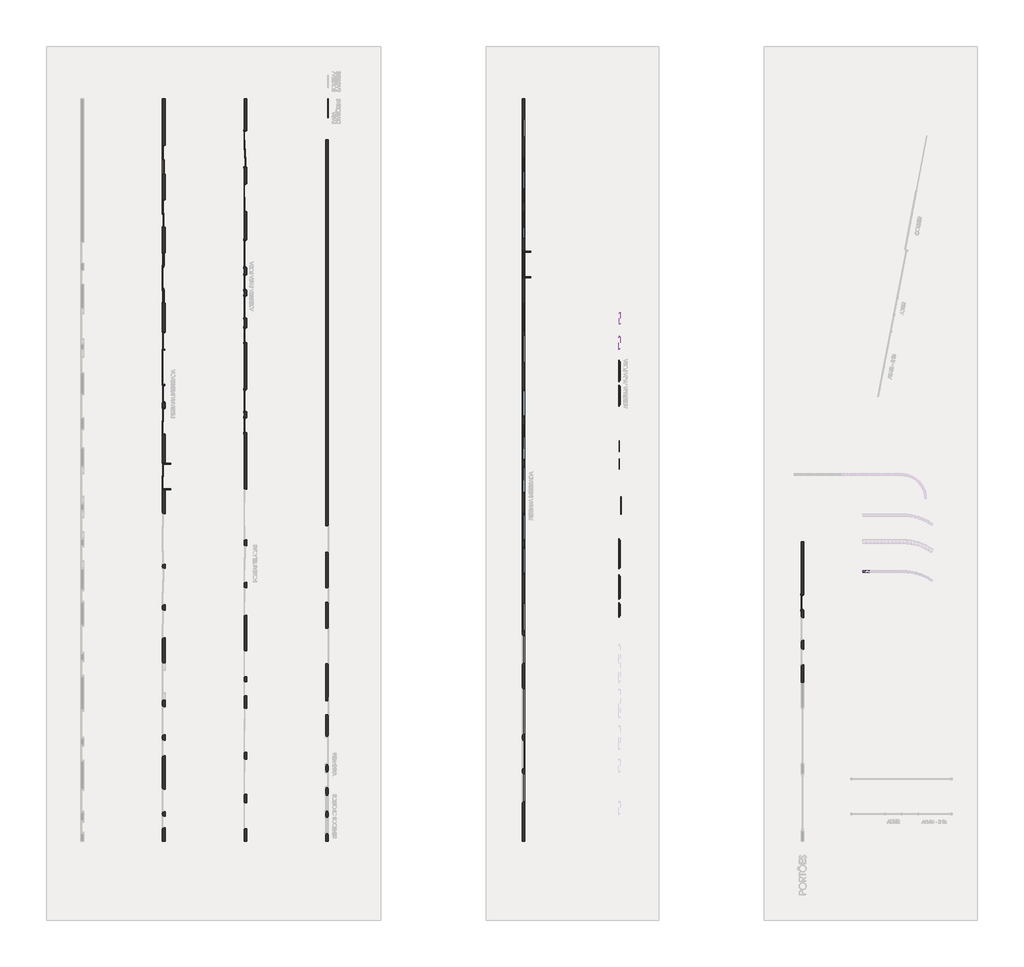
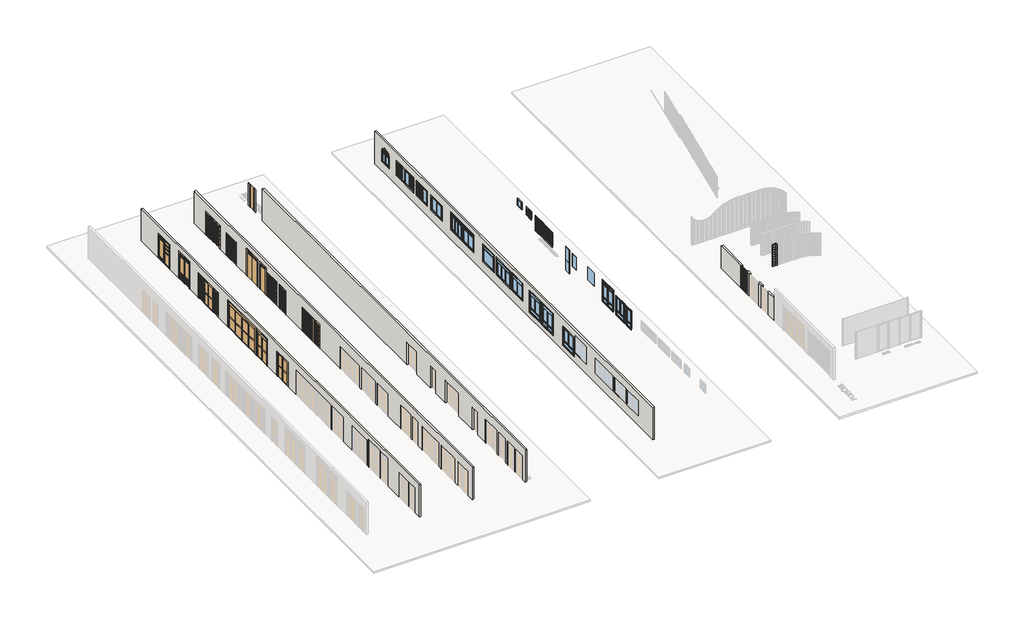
# One storey, part 2 of 15: 28 members, 22 windows, 18 plates, 16 doors, 6 walls.
"""IFC4 building model written with IfcOpenShell, lengths in millimetres."""

from ifc_helpers import new_model, si_unit, point, frame, frame_2d, origin, origin_with_axes, place, context, project, spatial, polyline, circle_curve, trimmed, segment, composite_curve, outline, extrude, transform, mapped, element, save
from components import door_120_x_210_11fb88a3, door_120_x_210_e39afd73, door_150_x_210_43c40135, door_150_x_220_97c69609, door_150_x_220_da17bf78, door_150_x_220_6ef245d6, door_150_x_220_6492d4d8, door_150_x_220_2da67abe, door_150_x_220_79fef6c3, door_200_x_210_1ee3ac55, door_200_x_210_0d7408c9, door_280_x_220_15cdb0a3, door_280_x_220_b82a3945, door_280_x_220_79a5b8a2, door_400_x_220_30593671, door_60_x_210_5ad6dbc2, door_80_160_x_210_04e50e8b, door_80_x_210_6ad2ea2f, door_80_x_210_b93372b0, door_80_x_220_70965305, door_80_x_210_1a701485, rectangular_mullion_junta_tijolo_de_vidro_3e2591da, rectangular_mullion_junta_tijolo_de_vidro_f72a5d11, rectangular_mullion_junta_tijolo_de_vidro_3e2b090d, rectangular_mullion_junta_tijolo_de_vidro_f51e90fd, rectangular_mullion_junta_tijolo_de_vidro_30a91def, rectangular_mullion_junta_tijolo_de_vidro_89802564, pnl_tijolo_de_vidro_a28b313b, window_100_x_120_d4ad384e, window_100_x_120_4a258b0d, window_100_x_120_e8788bc4, window_120_x_120_eb8e6252, window_150_x_120_fd5e9068, window_150_x_120_ad32f1ee, window_150_x_120_70a6131e, window_150_x_120_577b85d9, window_150_x_120_a11b06af, window_150_x_120_ec33c482, window_150_x_120_389f36cc, window_150_x_120_f6b27d10, window_150_x_120_5ce5c8ce, window_150_x_120_4bd1545a, window_200_x_120_acaa8d7a, window_250_x_120_5eaaa340, window_60_x_120_94a805db, window_60_x_120_d88f8660, window_60_x_120_2cb1537e, window_60_x_60_8af40003, window_60_x_60_2f3ebeee, janela_de_vidro_fixo_1_folha_100_x_110_6122613a

model = new_model("IFC4")

# Units and contexts
model_context = context("Model", 3, world=origin())
ifc_project = project(units=[si_unit("LENGTHUNIT", "METRE", prefix="MILLI")], contexts=[model_context])

# Site, building, storey
site = spatial("IfcSite", under=ifc_project)
building = spatial("IfcBuilding", under=site)
storey = spatial("IfcBuildingStorey", under=building, Name="TÉRREO", Elevation=0.0)

# Doors
placement = place(None, origin())
door_120_x_210_shape = door_120_x_210_11fb88a3(model_context)
element("IfcDoor", 1, ObjectType="PORTA VENEZIANA DE ABRIR - 2 FOLHAS : 120 X 210", at=placement, inside=storey, context=model_context, shape_type="MappedRepresentation", body=[
    mapped(door_120_x_210_shape, transform((8491.3161052, 12715.6559196, 0.0), x_axis=(0.0, -1.0, 0.0), y_axis=(1.0, 0.0, 0.0), z_axis=(0.0, 0.0, 1.0))),
])
door_120_x_210_2_shape = door_120_x_210_e39afd73(model_context)
element("IfcDoor", 2, ObjectType="PORTA VENEZIANA DE ABRIR PARA FORA - 2 FOLHAS : 120 X 210", at=placement, inside=storey, context=model_context, shape_type="MappedRepresentation", body=[
    mapped(door_120_x_210_2_shape, transform((8491.3161052, 17875.6559196, 0.0), x_axis=(0.0, 1.0, 0.0), y_axis=(-1.0, 0.0, 0.0), z_axis=(0.0, 0.0, 1.0))),
])
door_150_x_210_shape = door_150_x_210_43c40135(model_context)
element("IfcDoor", 3, ObjectType="PORTA VENEZIANA DE CORRER - 2 FOLHAS : 150 X 210", at=placement, inside=storey, context=model_context, shape_type="MappedRepresentation", body=[
    mapped(door_150_x_210_shape, transform((8489.3202338, 24238.8167935, 0.0), x_axis=(0.0, -1.0, 0.0), y_axis=(1.0, 0.0, 0.0), z_axis=(0.0, 0.0, 1.0))),
])
door_150_x_220_shape = door_150_x_220_97c69609(model_context)
element("IfcDoor", 4, ObjectType="PORTA DE VIDRO COM ESQUADRIA DE CORRER COM GRELHA - 2 FOLHAS + BANDEIRA VENEZIANA FIXA - 1 FOLHA : 150 X 220", at=placement, inside=storey, context=model_context, shape_type="MappedRepresentation", body=[
    mapped(door_150_x_220_shape, transform((3853.8161052, 23349.0043502, 0.0), x_axis=(0.0, -1.0, 0.0), y_axis=(1.0, 0.0, 0.0), z_axis=(0.0, 0.0, 1.0))),
])
door_150_x_220_2_shape = door_150_x_220_da17bf78(model_context)
element("IfcDoor", 5, ObjectType="PORTA DE ABRIR PARA FORA - 2 FOLHAS + BANDEIRA VENEZIANA FIXA - 1 FOLHA : 150 X 220", at=placement, inside=storey, context=model_context, shape_type="MappedRepresentation", body=[
    mapped(door_150_x_220_2_shape, transform((8491.3161052, 21065.6559196, 0.0), x_axis=(0.0, -1.0, 0.0), y_axis=(1.0, 0.0, 0.0), z_axis=(0.0, 0.0, 1.0))),
])
door_150_x_220_3_shape = door_150_x_220_6ef245d6(model_context)
door_150_x_220_4_shape = door_150_x_220_6492d4d8(model_context)
door_150_x_220_5_shape = door_150_x_220_2da67abe(model_context)
element("IfcDoor", 6, ObjectType="PORTA DE VIDRO COM ESQUADRIA DE CORRER - 2 FOLHAS + VENEZIANA SANFONADA - 4 FOLHAS : 150 X 220", at=placement, inside=storey, context=model_context, shape_type="MappedRepresentation", body=[
    mapped(door_150_x_220_3_shape, transform((3853.6582405, 8341.1881146, 0.0), x_axis=(0.0, -1.0, 0.0), y_axis=(1.0, 0.0, 0.0), z_axis=(0.0, 0.0, 1.0))),
    mapped(door_150_x_220_4_shape, transform((3853.6582405, 8341.1881146, 0.0), x_axis=(0.0, -1.0, 0.0), y_axis=(1.0, 0.0, 0.0), z_axis=(0.0, 0.0, 1.0))),
    mapped(door_150_x_220_5_shape, transform((3853.6582405, 8341.1881146, 0.0), x_axis=(0.0, -1.0, 0.0), y_axis=(1.0, 0.0, 0.0), z_axis=(0.0, 0.0, 1.0))),
])
door_150_x_220_6_shape = door_150_x_220_79fef6c3(model_context)
element("IfcDoor", 7, ObjectType="PORTA DE VIDRO COM ESQUADRIA DE CORRER - 2 FOLHAS + PERSIANA INTEGRADA : 150 x 220", at=placement, inside=storey, context=model_context, shape_type="MappedRepresentation", body=[
    mapped(door_150_x_220_6_shape, transform((3851.8890301, 11526.5998656, 0.0), x_axis=(0.0, -1.0, 0.0), y_axis=(1.0, 0.0, 0.0), z_axis=(0.0, 0.0, 1.0))),
])
door_200_x_210_shape = door_200_x_210_1ee3ac55(model_context)
door_200_x_210_2_shape = door_200_x_210_0d7408c9(model_context)
element("IfcDoor", 8, ObjectType="PORTA VENEZIANA DE CORRER - 4 FOLHAS : 200 X 210", at=placement, inside=storey, context=model_context, shape_type="MappedRepresentation", body=[
    mapped(door_200_x_210_shape, transform((8489.3202338, 27118.8167935, 0.0), x_axis=(0.0, -1.0, 0.0), y_axis=(1.0, 0.0, 0.0), z_axis=(0.0, 0.0, 1.0))),
    mapped(door_200_x_210_2_shape, transform((8489.3202338, 27118.8167935, 0.0), x_axis=(0.0, -1.0, 0.0), y_axis=(1.0, 0.0, 0.0), z_axis=(0.0, 0.0, 1.0))),
])
door_280_x_220_shape = door_280_x_220_15cdb0a3(model_context)
door_280_x_220_2_shape = door_280_x_220_b82a3945(model_context)
door_280_x_220_3_shape = door_280_x_220_79a5b8a2(model_context)
element("IfcDoor", 9, ObjectType="PORTA DE VIDRO COM ESQUADRIA DE CORRER - 4 FOLHAS + VENEZIANA DE CORRER - 4 FOLHAS : 280 x 220", at=placement, inside=storey, context=model_context, shape_type="MappedRepresentation", body=[
    mapped(door_280_x_220_shape, transform((3845.8478121, 19877.9178387, 0.0), x_axis=(0.0, -1.0, 0.0), y_axis=(1.0, 0.0, 0.0), z_axis=(0.0, 0.0, 1.0))),
    mapped(door_280_x_220_2_shape, transform((3845.8478121, 19877.9178387, 0.0), x_axis=(0.0, -1.0, 0.0), y_axis=(1.0, 0.0, 0.0), z_axis=(0.0, 0.0, 1.0))),
    mapped(door_280_x_220_3_shape, transform((3845.8478121, 19877.9178387, 0.0), x_axis=(0.0, -1.0, 0.0), y_axis=(1.0, 0.0, 0.0), z_axis=(0.0, 0.0, 1.0))),
])
door_400_x_220_shape = door_400_x_220_30593671(model_context)
element("IfcDoor", 10, ObjectType="PORTA DE VIDRO COM ESQUADRIA DE CORRER - 4 FOLHAS + PERSIANA INTEGRADA : 400 x 220", at=placement, inside=storey, context=model_context, shape_type="MappedRepresentation", body=[
    mapped(door_400_x_220_shape, transform((3851.8890301, 14581.5998656, 0.0), x_axis=(0.0, -1.0, 0.0), y_axis=(1.0, 0.0, 0.0), z_axis=(0.0, 0.0, 1.0))),
])
door_60_x_210_shape = door_60_x_210_5ad6dbc2(model_context)
element("IfcDoor", 11, ObjectType="PORTA DE ABRIR PARA DIVISÓRIAS- 1 FOLHA : 60 x 210", at=placement, inside=storey, context=model_context, shape_type="MappedRepresentation", body=[
    mapped(door_60_x_210_shape, transform((13188.8161052, 29295.931803, 0.0), x_axis=(0.0, -1.0, 0.0), y_axis=(1.0, 0.0, 0.0), z_axis=(0.0, 0.0, 1.0))),
])
door_80_160_x_210_shape = door_80_160_x_210_04e50e8b(model_context)
element("IfcDoor", 12, ObjectType="PORTA DE VIDRO COM GRELHA INFERIOR E SUPERIOR COM ESQUADRIA DE ABRIR - 1 FOLHA + LUZ LATERAL - 1 FOLHA FIXA + FOLHAS BASCULANTES : 80 (160) X 210", at=placement, inside=storey, context=model_context, shape_type="MappedRepresentation", body=[
    mapped(door_80_160_x_210_shape, transform((3853.8161052, 26308.7043502, 0.0), x_axis=(0.0, -1.0, 0.0), y_axis=(1.0, 0.0, 0.0), z_axis=(0.0, 0.0, 1.0))),
])
door_80_x_210_shape = door_80_x_210_6ad2ea2f(model_context)
element("IfcDoor", 13, ObjectType="PORTA VENEZIANA DE ABRIR - 1 FOLHA : 80 X 210", at=placement, inside=storey, context=model_context, shape_type="MappedRepresentation", body=[
    mapped(door_80_x_210_shape, transform((8491.3161052, 11155.6559196, 0.0), x_axis=(0.0, 1.0, 0.0), y_axis=(-1.0, 0.0, 0.0), z_axis=(0.0, 0.0, 1.0))),
])
door_80_x_210_2_shape = door_80_x_210_b93372b0(model_context)
element("IfcDoor", 14, ObjectType="PORTA VENEZIANA DE ABRIR PARA FORA - 1 FOLHA : 80 X 210", at=placement, inside=storey, context=model_context, shape_type="MappedRepresentation", body=[
    mapped(door_80_x_210_2_shape, transform((8491.3161052, 16435.6559196, 0.0), x_axis=(0.0, -1.0, 0.0), y_axis=(1.0, 0.0, 0.0), z_axis=(0.0, 0.0, 1.0))),
])
door_80_x_220_shape = door_80_x_220_70965305(model_context)
element("IfcDoor", 15, ObjectType="PORTA DE ABRIR PARA FORA - 1 FOLHA + BANDEIRA VENEZIANA FIXA - 1 FOLHA : 80 X 220", at=placement, inside=storey, context=model_context, shape_type="MappedRepresentation", body=[
    mapped(door_80_x_220_shape, transform((8491.3161052, 19435.6559196, 0.0), x_axis=(0.0, -1.0, 0.0), y_axis=(1.0, 0.0, 0.0), z_axis=(0.0, 0.0, 1.0))),
])
door_80_x_210_3_shape = door_80_x_210_1a701485(model_context)
element("IfcDoor", 16, ObjectType="PORTÃO VENEZIANA DE ABRIR - 1 FOLHA : 80 x 210", at=placement, inside=storey, context=model_context, shape_type="MappedRepresentation", body=[
    mapped(door_80_x_210_3_shape, transform((40169.4407312, 1211.6852962, 0.0), x_axis=(0.0, -1.0, 0.0), y_axis=(1.0, 0.0, 0.0), z_axis=(0.0, 0.0, 1.0))),
])

# Members
rectangular_mullion_junta_tijolo_de_vidro_shape = rectangular_mullion_junta_tijolo_de_vidro_3e2591da(model_context)
element("IfcMember", 17, ObjectType="Rectangular Mullion : JUNTA TIJOLO DE VIDRO", at=placement, inside=storey, context=model_context, shape_type="MappedRepresentation", body=[
    mapped(rectangular_mullion_junta_tijolo_de_vidro_shape, transform((43805.2941159, 2916.9852574, 10.0), x_axis=(1.0, 0.0, 0.0), y_axis=(0.0, -1.0, 0.0), z_axis=(0.0, 0.0, -1.0))),
])
element("IfcMember", 18, ObjectType="Rectangular Mullion : JUNTA TIJOLO DE VIDRO", at=placement, inside=storey, context=model_context, shape_type="MappedRepresentation", body=[
    mapped(rectangular_mullion_junta_tijolo_de_vidro_shape, transform((43805.2941159, 2916.9852574, 231.1111111), x_axis=(1.0, 0.0, 0.0), y_axis=(0.0, -1.0, 0.0), z_axis=(0.0, 0.0, -1.0))),
])
element("IfcMember", 19, ObjectType="Rectangular Mullion : JUNTA TIJOLO DE VIDRO", at=placement, inside=storey, context=model_context, shape_type="MappedRepresentation", body=[
    mapped(rectangular_mullion_junta_tijolo_de_vidro_shape, transform((43805.2941159, 2916.9852574, 452.2222222), x_axis=(1.0, 0.0, 0.0), y_axis=(0.0, -1.0, 0.0), z_axis=(0.0, 0.0, -1.0))),
])
element("IfcMember", 20, ObjectType="Rectangular Mullion : JUNTA TIJOLO DE VIDRO", at=placement, inside=storey, context=model_context, shape_type="MappedRepresentation", body=[
    mapped(rectangular_mullion_junta_tijolo_de_vidro_shape, transform((43805.2941159, 2916.9852574, 673.3333333), x_axis=(1.0, 0.0, 0.0), y_axis=(0.0, -1.0, 0.0), z_axis=(0.0, 0.0, -1.0))),
])
element("IfcMember", 21, ObjectType="Rectangular Mullion : JUNTA TIJOLO DE VIDRO", at=placement, inside=storey, context=model_context, shape_type="MappedRepresentation", body=[
    mapped(rectangular_mullion_junta_tijolo_de_vidro_shape, transform((43805.2941159, 2916.9852574, 894.4444444), x_axis=(1.0, 0.0, 0.0), y_axis=(0.0, -1.0, 0.0), z_axis=(0.0, 0.0, -1.0))),
])
element("IfcMember", 22, ObjectType="Rectangular Mullion : JUNTA TIJOLO DE VIDRO", at=placement, inside=storey, context=model_context, shape_type="MappedRepresentation", body=[
    mapped(rectangular_mullion_junta_tijolo_de_vidro_shape, transform((43805.2941159, 2916.9852574, 1115.5555556), x_axis=(1.0, 0.0, 0.0), y_axis=(0.0, -1.0, 0.0), z_axis=(0.0, 0.0, -1.0))),
])
element("IfcMember", 23, ObjectType="Rectangular Mullion : JUNTA TIJOLO DE VIDRO", at=placement, inside=storey, context=model_context, shape_type="MappedRepresentation", body=[
    mapped(rectangular_mullion_junta_tijolo_de_vidro_shape, transform((43805.2941159, 2916.9852574, 1336.6666667), x_axis=(1.0, 0.0, 0.0), y_axis=(0.0, -1.0, 0.0), z_axis=(0.0, 0.0, -1.0))),
])
element("IfcMember", 24, ObjectType="Rectangular Mullion : JUNTA TIJOLO DE VIDRO", at=placement, inside=storey, context=model_context, shape_type="MappedRepresentation", body=[
    mapped(rectangular_mullion_junta_tijolo_de_vidro_shape, transform((43805.2941159, 2916.9852574, 1557.7777778), x_axis=(1.0, 0.0, 0.0), y_axis=(0.0, -1.0, 0.0), z_axis=(0.0, 0.0, -1.0))),
])
rectangular_mullion_junta_tijolo_de_vidro_2_shape = rectangular_mullion_junta_tijolo_de_vidro_f72a5d11(model_context)
element("IfcMember", 25, ObjectType="Rectangular Mullion : JUNTA TIJOLO DE VIDRO", at=placement, inside=storey, context=model_context, shape_type="MappedRepresentation", body=[
    mapped(rectangular_mullion_junta_tijolo_de_vidro_2_shape, transform((43805.2941159, 2916.9852574, 2000.0), x_axis=(0.0, 0.0, 1.0), y_axis=(0.0, -1.0, 0.0), z_axis=(1.0, 0.0, 0.0))),
])
element("IfcMember", 26, ObjectType="Rectangular Mullion : JUNTA TIJOLO DE VIDRO", at=placement, inside=storey, context=model_context, shape_type="MappedRepresentation", body=[
    mapped(rectangular_mullion_junta_tijolo_de_vidro_2_shape, transform((43592.1122977, 2916.9852574, 0.0), x_axis=(0.0, 0.0, -1.0), y_axis=(0.0, -1.0, 0.0), z_axis=(-1.0, 0.0, 0.0))),
])
rectangular_mullion_junta_tijolo_de_vidro_3_shape = rectangular_mullion_junta_tijolo_de_vidro_3e2b090d(model_context)
element("IfcMember", 27, ObjectType="Rectangular Mullion : JUNTA TIJOLO DE VIDRO", at=placement, inside=storey, context=model_context, shape_type="MappedRepresentation", body=[
    mapped(rectangular_mullion_junta_tijolo_de_vidro_3_shape, transform((43805.2941159, 2916.9852574, 0.0), x_axis=(0.0, 0.0, -1.0), y_axis=(0.0, -1.0, 0.0), z_axis=(-1.0, 0.0, 0.0))),
])
rectangular_mullion_junta_tijolo_de_vidro_4_shape = rectangular_mullion_junta_tijolo_de_vidro_f51e90fd(model_context)
element("IfcMember", 28, ObjectType="Rectangular Mullion : JUNTA TIJOLO DE VIDRO", at=placement, inside=storey, context=model_context, shape_type="MappedRepresentation", body=[
    mapped(rectangular_mullion_junta_tijolo_de_vidro_4_shape, transform((43805.2941159, 2916.9852574, 226.1111111), x_axis=(0.0, 0.0, 1.0), y_axis=(0.0, -1.0, 0.0), z_axis=(1.0, 0.0, 0.0))),
])
element("IfcMember", 29, ObjectType="Rectangular Mullion : JUNTA TIJOLO DE VIDRO", at=placement, inside=storey, context=model_context, shape_type="MappedRepresentation", body=[
    mapped(rectangular_mullion_junta_tijolo_de_vidro_4_shape, transform((43805.2941159, 2916.9852574, 447.2222222), x_axis=(0.0, 0.0, 1.0), y_axis=(0.0, -1.0, 0.0), z_axis=(1.0, 0.0, 0.0))),
])
element("IfcMember", 30, ObjectType="Rectangular Mullion : JUNTA TIJOLO DE VIDRO", at=placement, inside=storey, context=model_context, shape_type="MappedRepresentation", body=[
    mapped(rectangular_mullion_junta_tijolo_de_vidro_4_shape, transform((43805.2941159, 2916.9852574, 668.3333333), x_axis=(0.0, 0.0, 1.0), y_axis=(0.0, -1.0, 0.0), z_axis=(1.0, 0.0, 0.0))),
])
element("IfcMember", 31, ObjectType="Rectangular Mullion : JUNTA TIJOLO DE VIDRO", at=placement, inside=storey, context=model_context, shape_type="MappedRepresentation", body=[
    mapped(rectangular_mullion_junta_tijolo_de_vidro_4_shape, transform((43805.2941159, 2916.9852574, 889.4444444), x_axis=(0.0, 0.0, 1.0), y_axis=(0.0, -1.0, 0.0), z_axis=(1.0, 0.0, 0.0))),
])
element("IfcMember", 32, ObjectType="Rectangular Mullion : JUNTA TIJOLO DE VIDRO", at=placement, inside=storey, context=model_context, shape_type="MappedRepresentation", body=[
    mapped(rectangular_mullion_junta_tijolo_de_vidro_4_shape, transform((43805.2941159, 2916.9852574, 1110.5555556), x_axis=(0.0, 0.0, 1.0), y_axis=(0.0, -1.0, 0.0), z_axis=(1.0, 0.0, 0.0))),
])
element("IfcMember", 33, ObjectType="Rectangular Mullion : JUNTA TIJOLO DE VIDRO", at=placement, inside=storey, context=model_context, shape_type="MappedRepresentation", body=[
    mapped(rectangular_mullion_junta_tijolo_de_vidro_4_shape, transform((43805.2941159, 2916.9852574, 1331.6666667), x_axis=(0.0, 0.0, 1.0), y_axis=(0.0, -1.0, 0.0), z_axis=(1.0, 0.0, 0.0))),
])
element("IfcMember", 34, ObjectType="Rectangular Mullion : JUNTA TIJOLO DE VIDRO", at=placement, inside=storey, context=model_context, shape_type="MappedRepresentation", body=[
    mapped(rectangular_mullion_junta_tijolo_de_vidro_4_shape, transform((43805.2941159, 2916.9852574, 1552.7777778), x_axis=(0.0, 0.0, 1.0), y_axis=(0.0, -1.0, 0.0), z_axis=(1.0, 0.0, 0.0))),
])
element("IfcMember", 35, ObjectType="Rectangular Mullion : JUNTA TIJOLO DE VIDRO", at=placement, inside=storey, context=model_context, shape_type="MappedRepresentation", body=[
    mapped(rectangular_mullion_junta_tijolo_de_vidro_4_shape, transform((43805.2941159, 2916.9852574, 1773.8888889), x_axis=(0.0, 0.0, 1.0), y_axis=(0.0, -1.0, 0.0), z_axis=(1.0, 0.0, 0.0))),
])
rectangular_mullion_junta_tijolo_de_vidro_5_shape = rectangular_mullion_junta_tijolo_de_vidro_30a91def(model_context)
element("IfcMember", 36, ObjectType="Rectangular Mullion : JUNTA TIJOLO DE VIDRO", at=placement, inside=storey, context=model_context, shape_type="MappedRepresentation", body=[
    mapped(rectangular_mullion_junta_tijolo_de_vidro_5_shape, transform((43592.1122977, 2916.9852574, 1990.0), x_axis=(-1.0, 0.0, 0.0), y_axis=(0.0, -1.0, 0.0), z_axis=(0.0, 0.0, 1.0))),
])
element("IfcMember", 37, ObjectType="Rectangular Mullion : JUNTA TIJOLO DE VIDRO", at=placement, inside=storey, context=model_context, shape_type="MappedRepresentation", body=[
    mapped(rectangular_mullion_junta_tijolo_de_vidro_5_shape, transform((43592.1122977, 2916.9852574, 226.1111111), x_axis=(-1.0, 0.0, 0.0), y_axis=(0.0, -1.0, 0.0), z_axis=(0.0, 0.0, 1.0))),
])
rectangular_mullion_junta_tijolo_de_vidro_6_shape = rectangular_mullion_junta_tijolo_de_vidro_89802564(model_context)
element("IfcMember", 38, ObjectType="Rectangular Mullion : JUNTA TIJOLO DE VIDRO", at=placement, inside=storey, context=model_context, shape_type="MappedRepresentation", body=[
    mapped(rectangular_mullion_junta_tijolo_de_vidro_6_shape, transform((43592.1122977, 2916.9852574, 447.2222222), x_axis=(-1.0, 0.0, 0.0), y_axis=(0.0, -1.0, 0.0), z_axis=(0.0, 0.0, 1.0))),
])
element("IfcMember", 39, ObjectType="Rectangular Mullion : JUNTA TIJOLO DE VIDRO", at=placement, inside=storey, context=model_context, shape_type="MappedRepresentation", body=[
    mapped(rectangular_mullion_junta_tijolo_de_vidro_6_shape, transform((43592.1122977, 2916.9852574, 668.3333333), x_axis=(-1.0, 0.0, 0.0), y_axis=(0.0, -1.0, 0.0), z_axis=(0.0, 0.0, 1.0))),
])
element("IfcMember", 40, ObjectType="Rectangular Mullion : JUNTA TIJOLO DE VIDRO", at=placement, inside=storey, context=model_context, shape_type="MappedRepresentation", body=[
    mapped(rectangular_mullion_junta_tijolo_de_vidro_6_shape, transform((43592.1122977, 2916.9852574, 889.4444444), x_axis=(-1.0, 0.0, 0.0), y_axis=(0.0, -1.0, 0.0), z_axis=(0.0, 0.0, 1.0))),
])
element("IfcMember", 41, ObjectType="Rectangular Mullion : JUNTA TIJOLO DE VIDRO", at=placement, inside=storey, context=model_context, shape_type="MappedRepresentation", body=[
    mapped(rectangular_mullion_junta_tijolo_de_vidro_6_shape, transform((43592.1122977, 2916.9852574, 1110.5555556), x_axis=(-1.0, 0.0, 0.0), y_axis=(0.0, -1.0, 0.0), z_axis=(0.0, 0.0, 1.0))),
])
element("IfcMember", 42, ObjectType="Rectangular Mullion : JUNTA TIJOLO DE VIDRO", at=placement, inside=storey, context=model_context, shape_type="MappedRepresentation", body=[
    mapped(rectangular_mullion_junta_tijolo_de_vidro_6_shape, transform((43592.1122977, 2916.9852574, 1331.6666667), x_axis=(-1.0, 0.0, 0.0), y_axis=(0.0, -1.0, 0.0), z_axis=(0.0, 0.0, 1.0))),
])
element("IfcMember", 43, ObjectType="Rectangular Mullion : JUNTA TIJOLO DE VIDRO", at=placement, inside=storey, context=model_context, shape_type="MappedRepresentation", body=[
    mapped(rectangular_mullion_junta_tijolo_de_vidro_6_shape, transform((43592.1122977, 2916.9852574, 1552.7777778), x_axis=(-1.0, 0.0, 0.0), y_axis=(0.0, -1.0, 0.0), z_axis=(0.0, 0.0, 1.0))),
])
element("IfcMember", 44, ObjectType="Rectangular Mullion : JUNTA TIJOLO DE VIDRO", at=placement, inside=storey, context=model_context, shape_type="MappedRepresentation", body=[
    mapped(rectangular_mullion_junta_tijolo_de_vidro_6_shape, transform((43592.1122977, 2916.9852574, 1773.8888889), x_axis=(-1.0, 0.0, 0.0), y_axis=(0.0, -1.0, 0.0), z_axis=(0.0, 0.0, 1.0))),
])

# Plates
pnl_tijolo_de_vidro_shape = pnl_tijolo_de_vidro_a28b313b(model_context)
element("IfcPlate", 45, ObjectType="pnl - TIJOLO DE VIDRO : e = 8", at=placement, inside=storey, context=model_context, shape_type="MappedRepresentation", body=[
    mapped(pnl_tijolo_de_vidro_shape, transform((43701.2032068, 2916.9852574, 10.0), x_axis=(1.0, 0.0, 0.0), y_axis=(0.0, 1.0, 0.0), z_axis=(0.0, 0.0, 1.0))),
])
element("IfcPlate", 46, ObjectType="pnl - TIJOLO DE VIDRO : e = 8", at=placement, inside=storey, context=model_context, shape_type="MappedRepresentation", body=[
    mapped(pnl_tijolo_de_vidro_shape, transform((43909.385025, 2916.9852574, 10.0), x_axis=(1.0, 0.0, 0.0), y_axis=(0.0, 1.0, 0.0), z_axis=(0.0, 0.0, 1.0))),
])
element("IfcPlate", 47, ObjectType="pnl - TIJOLO DE VIDRO : e = 8", at=placement, inside=storey, context=model_context, shape_type="MappedRepresentation", body=[
    mapped(pnl_tijolo_de_vidro_shape, transform((43701.2032068, 2916.9852574, 231.1111111), x_axis=(1.0, 0.0, 0.0), y_axis=(0.0, 1.0, 0.0), z_axis=(0.0, 0.0, 1.0))),
])
element("IfcPlate", 48, ObjectType="pnl - TIJOLO DE VIDRO : e = 8", at=placement, inside=storey, context=model_context, shape_type="MappedRepresentation", body=[
    mapped(pnl_tijolo_de_vidro_shape, transform((43909.385025, 2916.9852574, 231.1111111), x_axis=(1.0, 0.0, 0.0), y_axis=(0.0, 1.0, 0.0), z_axis=(0.0, 0.0, 1.0))),
])
element("IfcPlate", 49, ObjectType="pnl - TIJOLO DE VIDRO : e = 8", at=placement, inside=storey, context=model_context, shape_type="MappedRepresentation", body=[
    mapped(pnl_tijolo_de_vidro_shape, transform((43701.2032068, 2916.9852574, 452.2222222), x_axis=(1.0, 0.0, 0.0), y_axis=(0.0, 1.0, 0.0), z_axis=(0.0, 0.0, 1.0))),
])
element("IfcPlate", 50, ObjectType="pnl - TIJOLO DE VIDRO : e = 8", at=placement, inside=storey, context=model_context, shape_type="MappedRepresentation", body=[
    mapped(pnl_tijolo_de_vidro_shape, transform((43909.385025, 2916.9852574, 452.2222222), x_axis=(1.0, 0.0, 0.0), y_axis=(0.0, 1.0, 0.0), z_axis=(0.0, 0.0, 1.0))),
])
element("IfcPlate", 51, ObjectType="pnl - TIJOLO DE VIDRO : e = 8", at=placement, inside=storey, context=model_context, shape_type="MappedRepresentation", body=[
    mapped(pnl_tijolo_de_vidro_shape, transform((43701.2032068, 2916.9852574, 673.3333333), x_axis=(1.0, 0.0, 0.0), y_axis=(0.0, 1.0, 0.0), z_axis=(0.0, 0.0, 1.0))),
])
element("IfcPlate", 52, ObjectType="pnl - TIJOLO DE VIDRO : e = 8", at=placement, inside=storey, context=model_context, shape_type="MappedRepresentation", body=[
    mapped(pnl_tijolo_de_vidro_shape, transform((43909.385025, 2916.9852574, 673.3333333), x_axis=(1.0, 0.0, 0.0), y_axis=(0.0, 1.0, 0.0), z_axis=(0.0, 0.0, 1.0))),
])
element("IfcPlate", 53, ObjectType="pnl - TIJOLO DE VIDRO : e = 8", at=placement, inside=storey, context=model_context, shape_type="MappedRepresentation", body=[
    mapped(pnl_tijolo_de_vidro_shape, transform((43701.2032068, 2916.9852574, 894.4444444), x_axis=(1.0, 0.0, 0.0), y_axis=(0.0, 1.0, 0.0), z_axis=(0.0, 0.0, 1.0))),
])
element("IfcPlate", 54, ObjectType="pnl - TIJOLO DE VIDRO : e = 8", at=placement, inside=storey, context=model_context, shape_type="MappedRepresentation", body=[
    mapped(pnl_tijolo_de_vidro_shape, transform((43909.385025, 2916.9852574, 894.4444444), x_axis=(1.0, 0.0, 0.0), y_axis=(0.0, 1.0, 0.0), z_axis=(0.0, 0.0, 1.0))),
])
element("IfcPlate", 55, ObjectType="pnl - TIJOLO DE VIDRO : e = 8", at=placement, inside=storey, context=model_context, shape_type="MappedRepresentation", body=[
    mapped(pnl_tijolo_de_vidro_shape, transform((43701.2032068, 2916.9852574, 1115.5555556), x_axis=(1.0, 0.0, 0.0), y_axis=(0.0, 1.0, 0.0), z_axis=(0.0, 0.0, 1.0))),
])
element("IfcPlate", 56, ObjectType="pnl - TIJOLO DE VIDRO : e = 8", at=placement, inside=storey, context=model_context, shape_type="MappedRepresentation", body=[
    mapped(pnl_tijolo_de_vidro_shape, transform((43909.385025, 2916.9852574, 1115.5555556), x_axis=(1.0, 0.0, 0.0), y_axis=(0.0, 1.0, 0.0), z_axis=(0.0, 0.0, 1.0))),
])
element("IfcPlate", 57, ObjectType="pnl - TIJOLO DE VIDRO : e = 8", at=placement, inside=storey, context=model_context, shape_type="MappedRepresentation", body=[
    mapped(pnl_tijolo_de_vidro_shape, transform((43701.2032068, 2916.9852574, 1336.6666667), x_axis=(1.0, 0.0, 0.0), y_axis=(0.0, 1.0, 0.0), z_axis=(0.0, 0.0, 1.0))),
])
element("IfcPlate", 58, ObjectType="pnl - TIJOLO DE VIDRO : e = 8", at=placement, inside=storey, context=model_context, shape_type="MappedRepresentation", body=[
    mapped(pnl_tijolo_de_vidro_shape, transform((43909.385025, 2916.9852574, 1336.6666667), x_axis=(1.0, 0.0, 0.0), y_axis=(0.0, 1.0, 0.0), z_axis=(0.0, 0.0, 1.0))),
])
element("IfcPlate", 59, ObjectType="pnl - TIJOLO DE VIDRO : e = 8", at=placement, inside=storey, context=model_context, shape_type="MappedRepresentation", body=[
    mapped(pnl_tijolo_de_vidro_shape, transform((43701.2032068, 2916.9852574, 1557.7777778), x_axis=(1.0, 0.0, 0.0), y_axis=(0.0, 1.0, 0.0), z_axis=(0.0, 0.0, 1.0))),
])
element("IfcPlate", 60, ObjectType="pnl - TIJOLO DE VIDRO : e = 8", at=placement, inside=storey, context=model_context, shape_type="MappedRepresentation", body=[
    mapped(pnl_tijolo_de_vidro_shape, transform((43909.385025, 2916.9852574, 1557.7777778), x_axis=(1.0, 0.0, 0.0), y_axis=(0.0, 1.0, 0.0), z_axis=(0.0, 0.0, 1.0))),
])
element("IfcPlate", 61, ObjectType="pnl - TIJOLO DE VIDRO : e = 8", at=placement, inside=storey, context=model_context, shape_type="MappedRepresentation", body=[
    mapped(pnl_tijolo_de_vidro_shape, transform((43701.2032068, 2916.9852574, 1778.8888889), x_axis=(1.0, 0.0, 0.0), y_axis=(0.0, 1.0, 0.0), z_axis=(0.0, 0.0, 1.0))),
])
element("IfcPlate", 62, ObjectType="pnl - TIJOLO DE VIDRO : e = 8", at=placement, inside=storey, context=model_context, shape_type="MappedRepresentation", body=[
    mapped(pnl_tijolo_de_vidro_shape, transform((43909.385025, 2916.9852574, 1778.8888889), x_axis=(1.0, 0.0, 0.0), y_axis=(0.0, 1.0, 0.0), z_axis=(0.0, 0.0, 1.0))),
])

# Walls
element("IfcWall", 63, ObjectType="CERÂMICO - EMBOÇO / EMBOÇO (15)", at=placement, inside=storey, context=model_context, shape_type="SweptSolid", body=[
    extrude(outline(polyline([(29805.931803, 3000.0), (29805.931803, 0.0), (27163.7043502, 0.0), (27163.7043502, 2235.0), (25493.7043502, 2235.0), (25493.7043502, 0.0), (24054.0043502, 0.0), (24054.0043502, 2485.0), (22484.0043502, 2485.0), (22484.0043502, 0.0), (21054.0043502, 0.0), (21054.0043502, 2235.0), (18184.0043502, 2235.0), (18184.0043502, 0.0), (16554.0043502, 0.0), (16554.0043502, 2485.0), (12484.0043502, 2485.0), (12484.0043502, 0.0), (12249.0043502, 0.0), (12249.0043502, 2485.0), (10679.0043502, 2485.0), (10679.0043502, 0.0), (9114.0043502, 0.0), (9114.0043502, 2235.0), (7544.0043502, 2235.0), (7544.0043502, 0.0), (6205.0396235, 0.0), (6205.0396235, 2235.0), (3335.0396235, 2235.0), (3335.0396235, 0.0), (3105.0396235, 0.0), (3105.0396235, 2235.0), (1035.0396235, 2235.0), (1035.0396235, 0.0), (715.0396235, 0.0), (715.0396235, 2235.0), (-854.9603765, 2235.0), (-854.9603765, 0.0), (-2304.9603765, 0.0), (-2304.9603765, 2235.0), (-4374.9603765, 2235.0), (-4374.9603765, 0.0), (-4784.9603765, 0.0), (-4784.9603765, 2485.0), (-6354.9603765, 2485.0), (-6354.9603765, 0.0), (-6684.9603765, 0.0), (-6684.9603765, 2485.0), (-7554.9603765, 2485.0), (-7554.9603765, 0.0), (-9464.9603765, 0.0), (-9464.9603765, 2235.0), (-10734.9603765, 2235.0), (-10734.9603765, 0.0), (-10984.9603765, 0.0), (-10984.9603765, 2235.0), (-11654.9603765, 2235.0), (-11654.9603765, 0.0), (-12419.9603765, 0.0), (-12419.9603765, 3000.0), (29805.931803, 3000.0)])), frame((3778.8161052, 0.0, 0.0), z_axis=(1.0, 0.0, 0.0), x_axis=(0.0, 1.0, 0.0)), (0.0, 0.0, 1.0), 150.0),
])
element("IfcWall", 64, ObjectType="CERÂMICO - EMBOÇO / EMBOÇO (15)", at=placement, inside=storey, context=model_context, shape_type="SweptSolid", body=[
    extrude(outline(polyline([(29805.931803, 3000.0), (29805.931803, 0.0), (27970.6559196, 0.0), (27970.6559196, 2135.0), (25900.6559196, 2135.0), (25900.6559196, 0.0), (24950.6559196, 0.0), (24950.6559196, 2135.0), (23380.6559196, 2135.0), (23380.6559196, 0.0), (21770.6559196, 0.0), (21770.6559196, 2485.0), (20200.6559196, 2485.0), (20200.6559196, 0.0), (19790.6559196, 0.0), (19790.6559196, 2485.0), (18920.6559196, 2485.0), (18920.6559196, 0.0), (18590.6559196, 0.0), (18590.6559196, 2135.0), (17320.6559196, 2135.0), (17320.6559196, 0.0), (16790.6559196, 0.0), (16790.6559196, 2135.0), (15920.6559196, 2135.0), (15920.6559196, 0.0), (13270.6559196, 0.0), (13270.6559196, 2135.0), (12000.6559196, 2135.0), (12000.6559196, 0.0), (11670.6559196, 0.0), (11670.6559196, 2135.0), (10800.6559196, 2135.0), (10800.6559196, 0.0), (7590.6559196, 0.0), (7590.6559196, 2035.0), (4720.6559196, 2035.0), (4720.6559196, 0.0), (4370.6559196, 0.0), (4370.6559196, 2035.0), (2300.6559196, 2035.0), (2300.6559196, 0.0), (1990.6559196, 0.0), (1990.6559196, 2035.0), (420.6559196, 2035.0), (420.6559196, 0.0), (-1579.9603765, 0.0), (-1579.9603765, 2200.0), (-3079.9603765, 2200.0), (-3079.9603765, 0.0), (-3359.9603765, 0.0), (-3359.9603765, 2200.0), (-4159.9603765, 2200.0), (-4159.9603765, 0.0), (-4859.9603765, 0.0), (-4859.9603765, 2200.0), (-7359.9603765, 2200.0), (-7359.9603765, 0.0), (-7759.9603765, 0.0), (-7759.9603765, 2200.0), (-9759.9603765, 2200.0), (-9759.9603765, 0.0), (-10219.9603765, 0.0), (-10219.9603765, 2200.0), (-11719.9603765, 2200.0), (-11719.9603765, 0.0), (-12419.9603765, 0.0), (-12419.9603765, 3000.0), (29805.931803, 3000.0)])), frame((8416.3161052, 0.0, 0.0), z_axis=(1.0, 0.0, 0.0), x_axis=(0.0, 1.0, 0.0)), (0.0, 0.0, 1.0), 150.0),
])
element("IfcWall", 65, ObjectType="CERÂMICO - EMBOÇO / EMBOÇO (15)", at=placement, inside=storey, context=model_context, shape_type="SweptSolid", body=[
    extrude(outline(polyline([(27480.0396235, 3000.0), (27480.0396235, 0.0), (5520.0396235, 0.0), (5520.0396235, 2100.0), (4020.0396235, 2100.0), (4020.0396235, 0.0), (1980.0396235, 0.0), (1980.0396235, 2100.0), (1180.0396235, 2100.0), (1180.0396235, 0.0), (-319.9603765, 0.0), (-319.9603765, 2100.0), (-2319.9603765, 2100.0), (-2319.9603765, 0.0), (-4419.9603765, 0.0), (-4419.9603765, 2100.0), (-5219.9603765, 2100.0), (-5219.9603765, 0.0), (-6484.9603765, 0.0), (-6484.9603765, 2135.0), (-8054.9603765, 2135.0), (-8054.9603765, 0.0), (-8484.9603765, 0.0), (-8484.9603765, 2135.0), (-9354.9603765, 2135.0), (-9354.9603765, 0.0), (-9824.9603765, 0.0), (-9824.9603765, 2135.0), (-10694.9603765, 2135.0), (-10694.9603765, 0.0), (-11084.9603765, 0.0), (-11084.9603765, 2135.0), (-11954.9603765, 2135.0), (-11954.9603765, 0.0), (-12419.9603765, 0.0), (-12419.9603765, 3000.0), (27480.0396235, 3000.0)])), frame((13053.8161052, 0.0, 0.0), z_axis=(1.0, 0.0, 0.0), x_axis=(0.0, 1.0, 0.0)), (0.0, 0.0, 1.0), 150.0),
])
element("IfcWall", 66, ObjectType="CERÂMICO - EMBOÇO / EMBOÇO (15)", at=placement, inside=storey, context=model_context, shape_type="SweptSolid", body=[
    extrude(outline(polyline([(40094.4407312, 4616.9852574), (40244.4407312, 4616.9852574), (40244.4407312, 1591.6852962), (40094.4407312, 1591.6852962), (40094.4407312, 4616.9852574)])), origin_with_axes(), (0.0, 0.0, 1.0), 2100.0),
    extrude(outline(polyline([(40094.4407312, -978.3147038), (40244.4407312, -978.3147038), (40244.4407312, -1508.3147038), (40094.4407312, -1508.3147038), (40094.4407312, -978.3147038)])), origin_with_axes(), (0.0, 0.0, 1.0), 2100.0),
    extrude(outline(polyline([(40244.4407312, 291.6852962), (40094.4407312, 291.6852962), (40094.4407312, 721.6852962), (40244.4407312, 721.6852962), (40244.4407312, 291.6852962)])), origin_with_axes(), (0.0, 0.0, 1.0), 2100.0),
    extrude(outline(polyline([(40244.4407312, -3419.9603765), (40094.4407312, -3419.9603765), (40094.4407312, -2378.3147038), (40244.4407312, -2378.3147038), (40244.4407312, -3419.9603765)])), origin_with_axes(), (0.0, 0.0, 1.0), 2100.0),
])
element("IfcWall", 67, ObjectType="CERÂMICO - EMBOÇO / EMBOÇO (15)", at=placement, inside=storey, context=model_context, shape_type="SweptSolid", body=[
    extrude(outline(polyline([(29805.931803, 0.0), (-12419.9603765, 0.0), (-12419.9603765, 3000.0), (29805.931803, 3000.0), (29805.931803, 0.0)]), holes=[polyline([(1126.0596944, 565.0), (1126.0596944, 2235.0), (-443.9403056, 2235.0), (-443.9403056, 565.0), (1126.0596944, 565.0)]), polyline([(8915.0396235, 965.0), (8915.0396235, 2485.0), (7345.0396235, 2485.0), (7345.0396235, 965.0), (8915.0396235, 965.0)]), polyline([(16361.4262707, 2485.0), (14791.4262707, 2485.0), (14791.4262707, 965.0), (16361.4262707, 965.0), (16361.4262707, 2485.0)]), polyline([(-733.9403056, 965.0), (-733.9403056, 2485.0), (-2303.9403056, 2485.0), (-2303.9403056, 965.0), (-733.9403056, 965.0)]), polyline([(23415.0396235, 965.0), (23415.0396235, 2235.0), (21845.0396235, 2235.0), (21845.0396235, 965.0), (23415.0396235, 965.0)]), polyline([(21165.0396235, 965.0), (21165.0396235, 2235.0), (19595.0396235, 2235.0), (19595.0396235, 965.0), (21165.0396235, 965.0)]), polyline([(18161.4262707, 965.0), (18161.4262707, 2485.0), (16591.4262707, 2485.0), (16591.4262707, 965.0), (18161.4262707, 965.0)]), polyline([(11287.3959204, 965.0), (11287.3959204, 2485.0), (9217.3959204, 2485.0), (9217.3959204, 965.0), (11287.3959204, 965.0)]), polyline([(26465.0396235, 965.0), (26465.0396235, 2235.0), (23895.0396235, 2235.0), (23895.0396235, 965.0), (26465.0396235, 965.0)]), polyline([(13265.0396235, 965.0), (13265.0396235, 2485.0), (11695.0396235, 2485.0), (11695.0396235, 965.0), (13265.0396235, 965.0)]), composite_curve([segment(polyline([(28665.0396235, 965.0), (28665.0396235, 1835.0)]), True, "CONTINUOUS"), segment(trimmed(circle_curve(frame_2d((28265.0396235, 1835.0)), 400.0), [point((28665.0396235, 1835.0))], [point((28265.0396235, 2235.0))], True, "CARTESIAN"), True, "CONTINUOUS"), segment(polyline([(28265.0396235, 2235.0), (27995.0396235, 2235.0)]), True, "CONTINUOUS"), segment(trimmed(circle_curve(frame_2d((27995.0396235, 1835.0)), 400.0), [point((27995.0396235, 2235.0))], [point((27595.0396235, 1835.0))], True, "CARTESIAN"), True, "CONTINUOUS"), segment(polyline([(27595.0396235, 1835.0), (27595.0396235, 965.0), (28665.0396235, 965.0)]), True, "CONTINUOUS")], self_intersect=False), polyline([(-8593.0844681, 965.0), (-8593.0844681, 2235.0), (-10163.0844681, 2235.0), (-10163.0844681, 965.0), (-8593.0844681, 965.0)]), polyline([(-3760.7281712, 2235.0), (-6330.7281712, 2235.0), (-6330.7281712, 965.0), (-3760.7281712, 965.0), (-3760.7281712, 2235.0)]), polyline([(-6693.0844681, 965.0), (-6693.0844681, 2235.0), (-8263.0844681, 2235.0), (-8263.0844681, 965.0), (-6693.0844681, 965.0)]), polyline([(6226.0596944, 565.0), (6226.0596944, 2485.0), (4656.0596944, 2485.0), (4656.0596944, 565.0), (6226.0596944, 565.0)]), polyline([(4326.0596944, 565.0), (4326.0596944, 2485.0), (2756.0596944, 2485.0), (2756.0596944, 565.0), (4326.0596944, 565.0)])]), frame((24241.3161052, 0.0, 0.0), z_axis=(1.0, 0.0, 0.0), x_axis=(0.0, 1.0, 0.0)), (0.0, 0.0, 1.0), 150.0),
])
element("IfcWall", 68, ObjectType="int - DIVISÓRIA DE GRANITO          (3)", at=placement, inside=storey, context=model_context, shape_type="SweptSolid", body=[
    extrude(outline(polyline([(13203.8161052, 28705.931803), (13173.8161052, 28705.931803), (13173.8161052, 28935.931803), (13203.8161052, 28935.931803), (13203.8161052, 28705.931803)])), origin_with_axes(), (0.0, 0.0, 1.0), 2100.0),
    extrude(outline(polyline([(13173.8161052, 29805.931803), (13203.8161052, 29805.931803), (13203.8161052, 29555.931803), (13173.8161052, 29555.931803), (13173.8161052, 29805.931803)])), origin_with_axes(), (0.0, 0.0, 1.0), 2100.0),
])

# Windows
window_100_x_120_shape = window_100_x_120_d4ad384e(model_context)
element("IfcWindow", 69, ObjectType="VENEZIANA DE ABRIR PARA FORA - 2 FOLHAS : 100 X 120", at=placement, inside=storey, context=model_context, shape_type="MappedRepresentation", body=[
    mapped(window_100_x_120_shape, transform((29817.1919447, 14449.4431744, 0.0), x_axis=(0.0, -1.0, 0.0), y_axis=(1.0, 0.0, 0.0), z_axis=(0.0, 0.0, 1.0))),
])
window_100_x_120_2_shape = window_100_x_120_4a258b0d(model_context)
element("IfcWindow", 70, ObjectType="JANELA COM ESQUADRIA FIXA - 2 FOLHAS + BANDEIRA VENEZIANA ABOBADADA - 1 FOLHA : 100 x 120", at=placement, inside=storey, context=model_context, shape_type="MappedRepresentation", body=[
    mapped(window_100_x_120_2_shape, transform((24317.1919447, 28259.4431744, 0.0), x_axis=(0.0, -1.0, 0.0), y_axis=(1.0, 0.0, 0.0), z_axis=(0.0, 0.0, 1.0))),
])
window_100_x_120_3_shape = window_100_x_120_e8788bc4(model_context)
element("IfcWindow", 71, ObjectType="VENEZIANA DE ABRIR PARA FORA - 1 FOLHA : 100 x 120", at=placement, inside=storey, context=model_context, shape_type="MappedRepresentation", body=[
    mapped(window_100_x_120_3_shape, transform((29817.1919447, 13049.4431744, 0.0), x_axis=(0.0, -1.0, 0.0), y_axis=(1.0, 0.0, 0.0), z_axis=(0.0, 0.0, 1.0))),
])
window_120_x_120_shape = window_120_x_120_eb8e6252(model_context)
element("IfcWindow", 72, ObjectType="JANELA COM ESQUADRIA MAXIM-AR - 2 FOLHAS + PEITORIL COM ESQUADRIA FIXA - 1 FOLHA : 120 X 120", at=placement, inside=storey, context=model_context, shape_type="MappedRepresentation", body=[
    mapped(window_120_x_120_shape, transform((29817.1919447, 2156.1786057, 0.0), x_axis=(0.0, -1.0, 0.0), y_axis=(1.0, 0.0, 0.0), z_axis=(0.0, 0.0, 1.0))),
])
window_150_x_120_shape = window_150_x_120_fd5e9068(model_context)
element("IfcWindow", 73, ObjectType="JANELA COM ESQUADRIA MAXIM-AR - 2 FOLHAS + PEITORIL COM ESQUADRIA FIXA - 2 FOLHAS + BANDEIRA COM ESQUADRIA FIXA - 2 FOLHAS : 150 X 120", at=placement, inside=storey, context=model_context, shape_type="MappedRepresentation", body=[
    mapped(window_150_x_120_shape, transform((29817.1919447, 4046.1786057, 350.0), x_axis=(0.0, -1.0, 0.0), y_axis=(1.0, 0.0, 0.0), z_axis=(0.0, 0.0, 1.0))),
])
window_150_x_120_2_shape = window_150_x_120_ad32f1ee(model_context)
element("IfcWindow", 74, ObjectType="JANELA COM ESQUADRIA DE CORRER - 2 FOLHAS + PEITORIL FIXO - 1 FOLHA : 150 x 120", at=placement, inside=storey, context=model_context, shape_type="MappedRepresentation", body=[
    mapped(window_150_x_120_2_shape, transform((24317.1919447, 470.4632453, 0.0), x_axis=(0.0, -1.0, 0.0), y_axis=(1.0, 0.0, 0.0), z_axis=(0.0, 0.0, 1.0))),
])
window_150_x_120_3_shape = window_150_x_120_70a6131e(model_context)
element("IfcWindow", 75, ObjectType="JANELA COM ESQUADRIA DE CORRER - 2 FOLHAS + BANDEIRA VENEZIANA - 2 FOLHAS : 150 x 120", at=placement, inside=storey, context=model_context, shape_type="MappedRepresentation", body=[
    mapped(window_150_x_120_3_shape, transform((24317.1919447, 15705.8298216, 0.0), x_axis=(0.0, -1.0, 0.0), y_axis=(1.0, 0.0, 0.0), z_axis=(0.0, 0.0, 1.0))),
])
window_150_x_120_4_shape = window_150_x_120_577b85d9(model_context)
element("IfcWindow", 76, ObjectType="JANELA COM ESQUADRIA DE CORRER - 3 FOLHAS + BANDEIRA VENEZIANA - 3 FOLHAS : 150 x 120", at=placement, inside=storey, context=model_context, shape_type="MappedRepresentation", body=[
    mapped(window_150_x_120_4_shape, transform((24317.1919447, 17505.8298216, 0.0), x_axis=(0.0, -1.0, 0.0), y_axis=(1.0, 0.0, 0.0), z_axis=(0.0, 0.0, 1.0))),
])
window_150_x_120_5_shape = window_150_x_120_a11b06af(model_context)
element("IfcWindow", 77, ObjectType="JANELA COM ESQUADRIA DE CORRER - 2 FOLHAS + VENEZIANA SANFONADA - 4 FOLHAS : 150 x 120", at=placement, inside=storey, context=model_context, shape_type="MappedRepresentation", body=[
    mapped(window_150_x_120_5_shape, transform((24304.1428015, 20497.0637532, 0.0), x_axis=(0.0, -1.0, 0.0), y_axis=(1.0, 0.0, 0.0), z_axis=(0.0, 0.0, 1.0))),
])
window_150_x_120_6_shape = window_150_x_120_ec33c482(model_context)
element("IfcWindow", 78, ObjectType="JANELA COM ESQUADRIA DE CORRER - 2 FOLHAS + VENEZIANA DE CORRER - 2 FOLHAS : 150 x 120", at=placement, inside=storey, context=model_context, shape_type="MappedRepresentation", body=[
    mapped(window_150_x_120_6_shape, transform((24317.1919447, 22759.4431744, 0.0), x_axis=(0.0, -1.0, 0.0), y_axis=(1.0, 0.0, 0.0), z_axis=(0.0, 0.0, 1.0))),
])
window_150_x_120_7_shape = window_150_x_120_389f36cc(model_context)
element("IfcWindow", 79, ObjectType="JANELA COM ESQUADRIA FIXA - 1 FOLHA + PERSIANA INTEGRADA : 150 x 120", at=placement, inside=storey, context=model_context, shape_type="MappedRepresentation", body=[
    mapped(window_150_x_120_7_shape, transform((24317.1919447, 12609.4431744, 0.0), x_axis=(0.0, -1.0, 0.0), y_axis=(1.0, 0.0, 0.0), z_axis=(0.0, 0.0, 1.0))),
])
window_150_x_120_8_shape = window_150_x_120_f6b27d10(model_context)
element("IfcWindow", 80, ObjectType="JANELA COM ESQUADRIA DE CORRER - 2 FOLHAS + PERSIANA INTEGRADA : 150 x 120", at=placement, inside=storey, context=model_context, shape_type="MappedRepresentation", body=[
    mapped(window_150_x_120_8_shape, transform((24317.1919447, 8259.4431744, 0.0), x_axis=(0.0, -1.0, 0.0), y_axis=(1.0, 0.0, 0.0), z_axis=(0.0, 0.0, 1.0))),
])
window_150_x_120_9_shape = window_150_x_120_5ce5c8ce(model_context)
element("IfcWindow", 81, ObjectType="JANELA COM ESQUADRIA DE CORRER - 2 FOLHAS + BANDEIRA FIXA - 1 FOLHA + PERSIANA INTEGRADA : 150 x 120", at=placement, inside=storey, context=model_context, shape_type="MappedRepresentation", body=[
    mapped(window_150_x_120_9_shape, transform((24317.1919447, 5570.4632453, 0.0), x_axis=(0.0, -1.0, 0.0), y_axis=(1.0, 0.0, 0.0), z_axis=(0.0, 0.0, 1.0))),
])
window_150_x_120_10_shape = window_150_x_120_4bd1545a(model_context)
element("IfcWindow", 82, ObjectType="JANELA COM ESQUADRIA DE CORRER - 2 FOLHAS + BANDEIRA FIXA - 2 FOLHAS + PERSIANA INTEGRADA : 150 x 120", at=placement, inside=storey, context=model_context, shape_type="MappedRepresentation", body=[
    mapped(window_150_x_120_10_shape, transform((24317.1919447, 3670.4632453, 0.0), x_axis=(0.0, -1.0, 0.0), y_axis=(1.0, 0.0, 0.0), z_axis=(0.0, 0.0, 1.0))),
])
window_200_x_120_shape = window_200_x_120_acaa8d7a(model_context)
element("IfcWindow", 83, ObjectType="JANELA COM ESQUADRIA DE CORRER - 3 FOLHAS + PERSIANA INTEGRADA : 200 x 120", at=placement, inside=storey, context=model_context, shape_type="MappedRepresentation", body=[
    mapped(window_200_x_120_shape, transform((24317.1919447, 10346.7994713, 0.0), x_axis=(0.0, -1.0, 0.0), y_axis=(1.0, 0.0, 0.0), z_axis=(0.0, 0.0, 1.0))),
])
window_250_x_120_shape = window_250_x_120_5eaaa340(model_context)
element("IfcWindow", 84, ObjectType="JANELA COM ESQUADRIA DE CORRER - 4 FOLHAS + VENEZIANA DE CORRER - 4 FOLHAS : 250 x 120", at=placement, inside=storey, context=model_context, shape_type="MappedRepresentation", body=[
    mapped(window_250_x_120_shape, transform((24317.1919447, 25309.4431744, 0.0), x_axis=(0.0, -1.0, 0.0), y_axis=(1.0, 0.0, 0.0), z_axis=(0.0, 0.0, 1.0))),
])
window_60_x_120_shape = window_60_x_120_94a805db(model_context)
element("IfcWindow", 85, ObjectType="JANELA COM ESQUADRIA MAXIM-AR - 1 FOLHA + PEITORIL COM ESQUADRIA FIXA - 1 FOLHA : 60 X 120", at=placement, inside=storey, context=model_context, shape_type="MappedRepresentation", body=[
    mapped(window_60_x_120_shape, transform((29817.1919447, 856.1786057, 0.0), x_axis=(0.0, -1.0, 0.0), y_axis=(1.0, 0.0, 0.0), z_axis=(0.0, 0.0, 1.0))),
])
window_60_x_120_2_shape = window_60_x_120_d88f8660(model_context)
element("IfcWindow", 86, ObjectType="JANELA DE VIDRO PIVOTANTE - 1 FOLHA : 60 x 120", at=placement, inside=storey, context=model_context, shape_type="MappedRepresentation", body=[
    mapped(window_60_x_120_2_shape, transform((29816.3161052, 9010.0396235, 0.0), x_axis=(0.0, -1.0, 0.0), y_axis=(1.0, 0.0, 0.0), z_axis=(0.0, 0.0, 1.0))),
])
window_60_x_120_3_shape = window_60_x_120_2cb1537e(model_context)
element("IfcWindow", 87, ObjectType="JANELA DE VIDRO PIVOTANTE - 1 FOLHA + PEITORIL DE VIDRO FIXO - 1 FOLHA : 60 x 120", at=placement, inside=storey, context=model_context, shape_type="MappedRepresentation", body=[
    mapped(window_60_x_120_3_shape, transform((29816.3161052, 10030.0396235, 0.0), x_axis=(0.0, -1.0, 0.0), y_axis=(1.0, 0.0, 0.0), z_axis=(0.0, 0.0, 1.0))),
])
window_60_x_60_shape = window_60_x_60_8af40003(model_context)
element("IfcWindow", 88, ObjectType="VENEZIANA FIXA - 1 FOLHA : 60 x 60", at=placement, inside=storey, context=model_context, shape_type="MappedRepresentation", body=[
    mapped(window_60_x_60_shape, transform((29817.1919447, 16049.4431744, 0.0), x_axis=(0.0, -1.0, 0.0), y_axis=(1.0, 0.0, 0.0), z_axis=(0.0, 0.0, 1.0))),
])
window_60_x_60_2_shape = window_60_x_60_2f3ebeee(model_context)
element("IfcWindow", 89, ObjectType="JANELA TELADA COM ESQUADRIA FIXA - 1 FOLHA : 60 x 60", at=placement, inside=storey, context=model_context, shape_type="MappedRepresentation", body=[
    mapped(window_60_x_60_2_shape, transform((29817.1919447, 17449.4431744, 0.0), x_axis=(0.0, -1.0, 0.0), y_axis=(1.0, 0.0, 0.0), z_axis=(0.0, 0.0, 1.0))),
])
janela_de_vidro_fixo_1_folha_100_x_110_shape = janela_de_vidro_fixo_1_folha_100_x_110_6122613a(model_context)
element("IfcWindow", 90, ObjectType="JANELA DE VIDRO FIXO - 1 FOLHA : 100 x 110", at=placement, inside=storey, context=model_context, shape_type="MappedRepresentation", body=[
    mapped(janela_de_vidro_fixo_1_folha_100_x_110_shape, transform((29816.3161052, 6690.0396235, 0.0), x_axis=(0.0, 1.0, 0.0), y_axis=(-1.0, 0.0, 0.0), z_axis=(0.0, 0.0, 1.0))),
])

save(model, "model.ifc")
